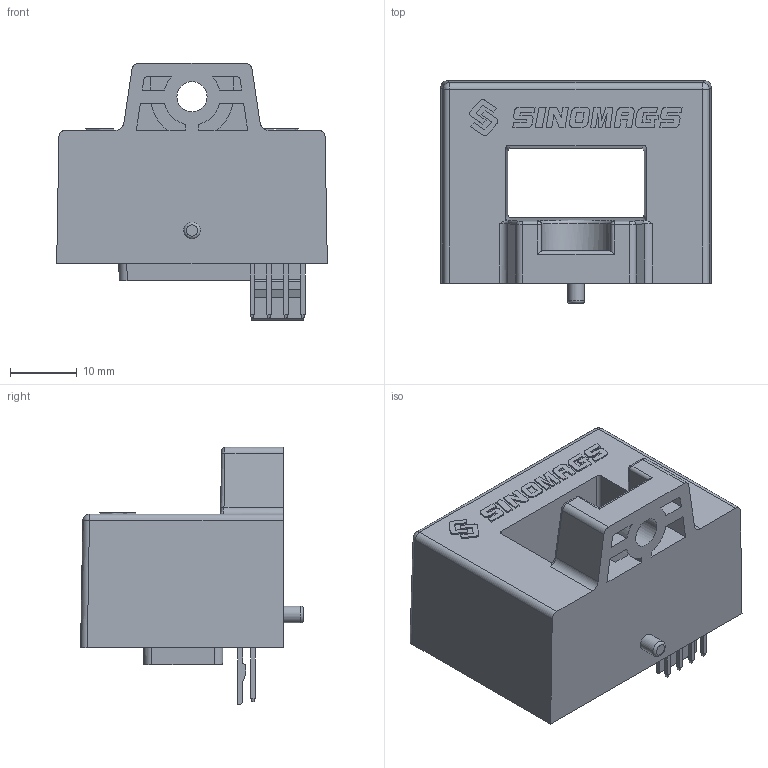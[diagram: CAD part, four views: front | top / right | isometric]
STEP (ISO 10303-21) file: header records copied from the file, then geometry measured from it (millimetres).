
FILE_DESCRIPTION(/* description */ (''),/* implementation_level */ '2;1');
FILE_NAME(/* name */ 'STK-BS-S1.stp',/* time_stamp */ '2021-08-13T16:23:15+08:00',/* author */ (''),/* organization */ (''),/* preprocessor_version */ 'ST-DEVELOPER v15',/* originating_system */ 'SIEMENS PLM Software NX 8.5',/* authorisation */ '');
FILE_SCHEMA (('AUTOMOTIVE_DESIGN { 1 0 10303 214 3 1 1 1 }'));
Length unit declared in the file: millimetre
Products named in the file (1): Gong590C567Cr622
Bounding box: 40.5 x 33.35 x 38.5 mm (x, y, z)
Volume: 20099 mm3; surface area: 7792.1 mm2
Topology: 1 solids, 1 shells, 321 faces, 852 edges, 552 vertices
Faces by surface type: plane 230, cylinder 52, extrusion 29, bspline 5, sphere 4, torus 1
Full cylindrical faces by diameter (mm): 2.5 x1, 4.5 x1
Entity records: 10668 total; most frequent: CARTESIAN_POINT 2555, ORIENTED_EDGE 1686, DIRECTION 1412, EDGE_CURVE 843, VECTOR 624, LINE 595, VERTEX_POINT 550, AXIS2_PLACEMENT_3D 394
